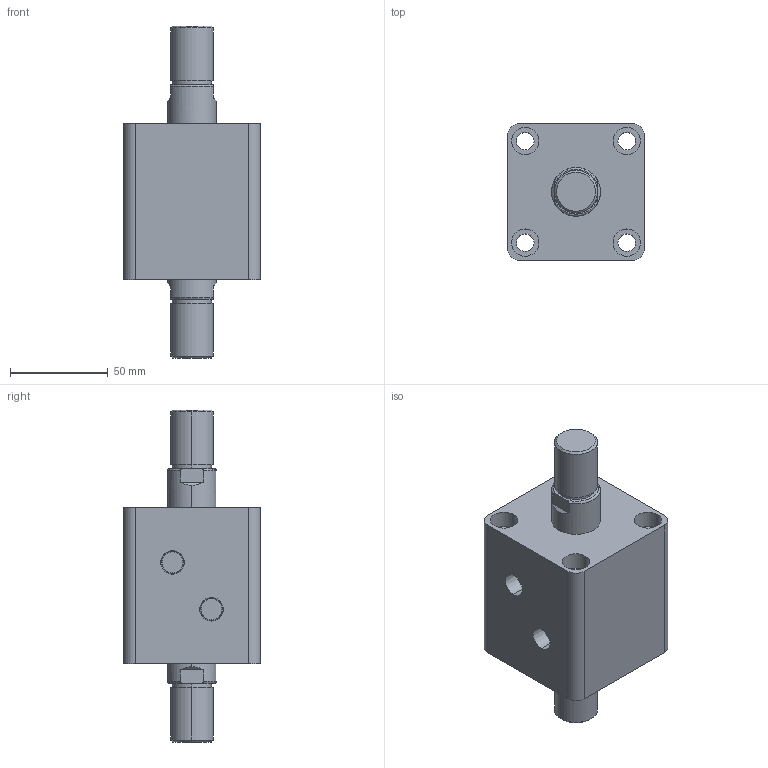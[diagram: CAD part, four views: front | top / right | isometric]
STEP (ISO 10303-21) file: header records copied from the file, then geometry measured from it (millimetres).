
FILE_DESCRIPTION (( 'STEP AP203' ), '1' );
FILE_NAME ('HTB-SW40-10W.STEP', '2019-10-07T09:05:15', ( '微软用户' ), ( '微软中国' ), 'SwSTEP 2.0', 'SolidWorks 2012', '' );
FILE_SCHEMA (( 'CONFIG_CONTROL_DESIGN' ));
Length unit declared in the file: millimetre
Products named in the file (3): HTB-SW40-10W; HTB-SW40-10W活塞杆; HTB-SW40-10掛极
Assembly tree (2 placements, depth 2):
  HTB-SW40-10W
    HTB-SW40-10掛极
    HTB-SW40-10W活塞杆
Bounding box: 70 x 70 x 170 mm (x, y, z)
Volume: 389785.1 mm3; surface area: 65816.7 mm2
Topology: 2 solids, 2 shells, 108 faces, 240 edges, 156 vertices
Faces by surface type: cylinder 52, plane 36, torus 12, cone 8
Entity records: 3449 total; most frequent: CARTESIAN_POINT 629, DIRECTION 586, ORIENTED_EDGE 480, AXIS2_PLACEMENT_3D 249, EDGE_CURVE 240, VERTEX_POINT 156, EDGE_LOOP 138, CIRCLE 136
